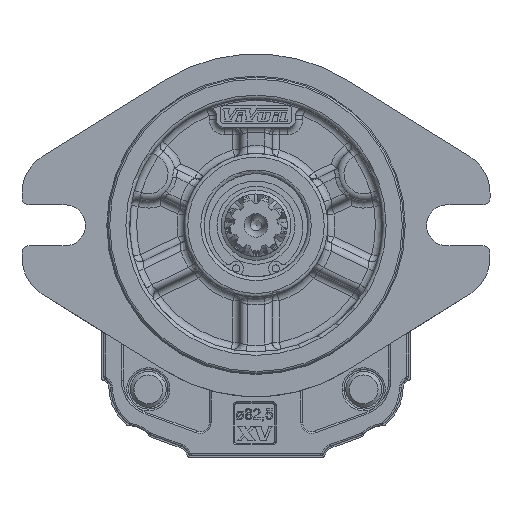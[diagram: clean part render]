
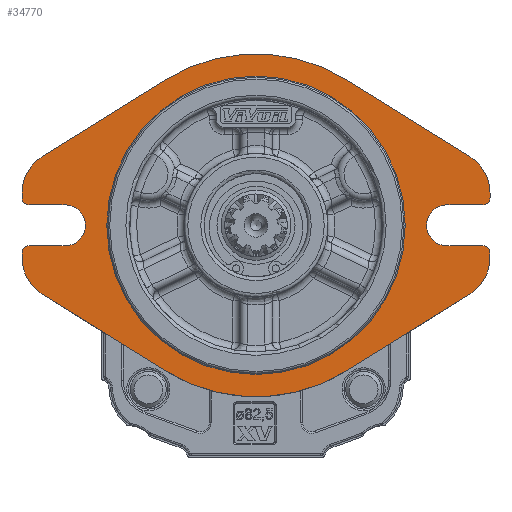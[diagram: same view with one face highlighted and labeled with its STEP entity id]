
A CAD part, front view. The second image highlights one B-rep face of the part: STEP entity #34770.
In plain terms, the highlighted planar face has unit normal (0, -1, 0).
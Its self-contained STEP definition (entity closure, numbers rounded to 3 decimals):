
#1561=LINE('',#51268,#3473);
#1565=LINE('',#51280,#3477);
#1566=LINE('',#51282,#3478);
#1573=LINE('',#51301,#3485);
#1574=LINE('',#51303,#3486);
#1581=LINE('',#51332,#3493);
#1582=LINE('',#51337,#3494);
#1583=LINE('',#51341,#3495);
#1584=LINE('',#51344,#3496);
#1585=LINE('',#51348,#3497);
#1586=LINE('',#51352,#3498);
#1587=LINE('',#51356,#3499);
#3473=VECTOR('',#40808,1000.);
#3477=VECTOR('',#40820,1000.);
#3478=VECTOR('',#40823,1000.);
#3485=VECTOR('',#40838,1000.);
#3486=VECTOR('',#40841,1000.);
#3493=VECTOR('',#40870,1000.);
#3494=VECTOR('',#40873,1000.);
#3495=VECTOR('',#40876,1000.);
#3496=VECTOR('',#40881,1000.);
#3497=VECTOR('',#40884,1000.);
#3498=VECTOR('',#40887,1000.);
#3499=VECTOR('',#40890,1000.);
#5007=PLANE('',#36669);
#8334=ORIENTED_EDGE('',*,*,#14771,.T.);
#8335=ORIENTED_EDGE('',*,*,#14772,.F.);
#8336=ORIENTED_EDGE('',*,*,#14773,.T.);
#8337=ORIENTED_EDGE('',*,*,#14774,.F.);
#8338=ORIENTED_EDGE('',*,*,#14775,.F.);
#8339=ORIENTED_EDGE('',*,*,#14776,.F.);
#8340=ORIENTED_EDGE('',*,*,#14692,.F.);
#8341=ORIENTED_EDGE('',*,*,#14741,.F.);
#8342=ORIENTED_EDGE('',*,*,#14744,.F.);
#8343=ORIENTED_EDGE('',*,*,#14747,.F.);
#8344=ORIENTED_EDGE('',*,*,#14777,.T.);
#8345=ORIENTED_EDGE('',*,*,#14748,.F.);
#8346=ORIENTED_EDGE('',*,*,#14754,.F.);
#8347=ORIENTED_EDGE('',*,*,#14757,.F.);
#8348=ORIENTED_EDGE('',*,*,#14778,.T.);
#8349=ORIENTED_EDGE('',*,*,#14758,.F.);
#8350=ORIENTED_EDGE('',*,*,#14770,.F.);
#8351=ORIENTED_EDGE('',*,*,#14779,.F.);
#8352=ORIENTED_EDGE('',*,*,#14780,.F.);
#8353=ORIENTED_EDGE('',*,*,#14781,.F.);
#8354=ORIENTED_EDGE('',*,*,#14782,.F.);
#8355=ORIENTED_EDGE('',*,*,#14783,.F.);
#8356=ORIENTED_EDGE('',*,*,#14784,.T.);
#8357=ORIENTED_EDGE('',*,*,#14785,.F.);
#8358=ORIENTED_EDGE('',*,*,#14786,.F.);
#14692=EDGE_CURVE('',#18058,#18059,#20002,.T.);
#14741=EDGE_CURVE('',#18101,#18058,#1561,.T.);
#14744=EDGE_CURVE('',#18103,#18101,#20030,.T.);
#14747=EDGE_CURVE('',#18105,#18103,#1565,.T.);
#14748=EDGE_CURVE('',#18106,#18107,#1566,.T.);
#14754=EDGE_CURVE('',#18111,#18106,#20032,.T.);
#14757=EDGE_CURVE('',#18113,#18111,#1573,.T.);
#14758=EDGE_CURVE('',#18114,#18115,#1574,.T.);
#14770=EDGE_CURVE('',#18123,#18114,#20038,.T.);
#14771=EDGE_CURVE('',#18124,#18124,#20039,.T.);
#14772=EDGE_CURVE('',#18125,#18126,#1581,.T.);
#14773=EDGE_CURVE('',#18125,#18127,#20040,.F.);
#14774=EDGE_CURVE('',#18128,#18127,#1582,.T.);
#14775=EDGE_CURVE('',#18129,#18128,#20041,.T.);
#14776=EDGE_CURVE('',#18059,#18129,#1583,.T.);
#14777=EDGE_CURVE('',#18105,#18107,#20042,.F.);
#14778=EDGE_CURVE('',#18113,#18115,#20043,.F.);
#14779=EDGE_CURVE('',#18130,#18123,#1584,.T.);
#14780=EDGE_CURVE('',#18131,#18130,#20044,.T.);
#14781=EDGE_CURVE('',#18132,#18131,#1585,.T.);
#14782=EDGE_CURVE('',#18133,#18132,#20045,.T.);
#14783=EDGE_CURVE('',#18134,#18133,#1586,.T.);
#14784=EDGE_CURVE('',#18134,#18135,#20046,.F.);
#14785=EDGE_CURVE('',#18136,#18135,#1587,.T.);
#14786=EDGE_CURVE('',#18126,#18136,#20047,.T.);
#18058=VERTEX_POINT('',#51168);
#18059=VERTEX_POINT('',#51170);
#18101=VERTEX_POINT('',#51267);
#18103=VERTEX_POINT('',#51273);
#18105=VERTEX_POINT('',#51279);
#18106=VERTEX_POINT('',#51283);
#18107=VERTEX_POINT('',#51284);
#18111=VERTEX_POINT('',#51294);
#18113=VERTEX_POINT('',#51300);
#18114=VERTEX_POINT('',#51304);
#18115=VERTEX_POINT('',#51305);
#18123=VERTEX_POINT('',#51327);
#18124=VERTEX_POINT('',#51331);
#18125=VERTEX_POINT('',#51333);
#18126=VERTEX_POINT('',#51334);
#18127=VERTEX_POINT('',#51336);
#18128=VERTEX_POINT('',#51338);
#18129=VERTEX_POINT('',#51340);
#18130=VERTEX_POINT('',#51345);
#18131=VERTEX_POINT('',#51347);
#18132=VERTEX_POINT('',#51349);
#18133=VERTEX_POINT('',#51351);
#18134=VERTEX_POINT('',#51353);
#18135=VERTEX_POINT('',#51355);
#18136=VERTEX_POINT('',#51357);
#20002=CIRCLE('',#36618,47.75);
#20030=CIRCLE('',#36652,12.);
#20032=CIRCLE('',#36657,5.7);
#20038=CIRCLE('',#36668,12.);
#20039=CIRCLE('',#36670,40.982);
#20040=CIRCLE('',#36671,2.);
#20041=CIRCLE('',#36672,12.);
#20042=CIRCLE('',#36673,2.);
#20043=CIRCLE('',#36674,2.);
#20044=CIRCLE('',#36675,47.75);
#20045=CIRCLE('',#36676,12.);
#20046=CIRCLE('',#36677,2.);
#20047=CIRCLE('',#36678,5.7);
#21477=EDGE_LOOP('',(#8334));
#21478=EDGE_LOOP('',(#8335,#8336,#8337,#8338,#8339,#8340,#8341,#8342,#8343,
#8344,#8345,#8346,#8347,#8348,#8349,#8350,#8351,#8352,#8353,#8354,#8355,
#8356,#8357,#8358));
#23149=FACE_BOUND('',#21477,.T.);
#23150=FACE_BOUND('',#21478,.T.);
#34770=ADVANCED_FACE('',(#23149,#23150),#5007,.F.);
#36618=AXIS2_PLACEMENT_3D('',#51169,#40724,#40725);
#36652=AXIS2_PLACEMENT_3D('',#51274,#40814,#40815);
#36657=AXIS2_PLACEMENT_3D('',#51295,#40832,#40833);
#36668=AXIS2_PLACEMENT_3D('',#51328,#40864,#40865);
#36669=AXIS2_PLACEMENT_3D('',#51329,#40866,#40867);
#36670=AXIS2_PLACEMENT_3D('',#51330,#40868,#40869);
#36671=AXIS2_PLACEMENT_3D('',#51335,#40871,#40872);
#36672=AXIS2_PLACEMENT_3D('',#51339,#40874,#40875);
#36673=AXIS2_PLACEMENT_3D('',#51342,#40877,#40878);
#36674=AXIS2_PLACEMENT_3D('',#51343,#40879,#40880);
#36675=AXIS2_PLACEMENT_3D('',#51346,#40882,#40883);
#36676=AXIS2_PLACEMENT_3D('',#51350,#40885,#40886);
#36677=AXIS2_PLACEMENT_3D('',#51354,#40888,#40889);
#36678=AXIS2_PLACEMENT_3D('',#51358,#40891,#40892);
#40724=DIRECTION('',(0.,1.,0.));
#40725=DIRECTION('',(-1.,0.,0.));
#40808=DIRECTION('',(-0.849,0.,-0.528));
#40814=DIRECTION('',(0.,1.,0.));
#40815=DIRECTION('',(-1.,0.,0.));
#40820=DIRECTION('',(0.,0.,-1.));
#40823=DIRECTION('',(1.,0.,0.));
#40832=DIRECTION('',(0.,-1.,0.));
#40833=DIRECTION('',(1.,0.,0.));
#40838=DIRECTION('',(-1.,0.,0.));
#40841=DIRECTION('',(0.,0.,-1.));
#40864=DIRECTION('',(0.,1.,0.));
#40865=DIRECTION('',(-1.,0.,0.));
#40866=DIRECTION('',(0.,1.,0.));
#40867=DIRECTION('',(0.,0.,-1.));
#40868=DIRECTION('',(0.,1.,0.));
#40869=DIRECTION('',(-1.,0.,0.));
#40870=DIRECTION('',(1.,0.,0.));
#40871=DIRECTION('',(0.,1.,0.));
#40872=DIRECTION('',(0.,0.,-1.));
#40873=DIRECTION('',(0.,0.,1.));
#40874=DIRECTION('',(0.,1.,0.));
#40875=DIRECTION('',(1.,0.,0.));
#40876=DIRECTION('',(-0.849,0.,0.528));
#40877=DIRECTION('',(0.,1.,0.));
#40878=DIRECTION('',(0.,0.,-1.));
#40879=DIRECTION('',(0.,1.,0.));
#40880=DIRECTION('',(0.,0.,-1.));
#40881=DIRECTION('',(0.849,0.,-0.528));
#40882=DIRECTION('',(0.,1.,0.));
#40883=DIRECTION('',(-1.,0.,0.));
#40884=DIRECTION('',(0.849,0.,0.528));
#40885=DIRECTION('',(0.,1.,0.));
#40886=DIRECTION('',(1.,0.,0.));
#40887=DIRECTION('',(0.,0.,1.));
#40888=DIRECTION('',(0.,1.,0.));
#40889=DIRECTION('',(0.,0.,-1.));
#40890=DIRECTION('',(-1.,0.,0.));
#40891=DIRECTION('',(0.,-1.,0.));
#40892=DIRECTION('',(-1.,0.,0.));
#51168=CARTESIAN_POINT('',(25.235,-19.,-24.837));
#51169=CARTESIAN_POINT('',(0.,-19.,15.7));
#51170=CARTESIAN_POINT('',(-25.235,-19.,-24.837));
#51267=CARTESIAN_POINT('',(59.532,-19.,-3.487));
#51268=CARTESIAN_POINT('',(59.532,-19.,-3.487));
#51273=CARTESIAN_POINT('',(65.19,-19.,6.7));
#51274=CARTESIAN_POINT('',(53.19,-19.,6.7));
#51279=CARTESIAN_POINT('',(65.19,-19.,8.));
#51280=CARTESIAN_POINT('',(65.19,-19.,6.7));
#51282=CARTESIAN_POINT('',(53.19,-19.,10.));
#51283=CARTESIAN_POINT('',(53.19,-19.,10.));
#51284=CARTESIAN_POINT('',(63.19,-19.,10.));
#51294=CARTESIAN_POINT('',(53.19,-19.,21.4));
#51295=CARTESIAN_POINT('',(53.19,-19.,15.7));
#51300=CARTESIAN_POINT('',(63.19,-19.,21.4));
#51301=CARTESIAN_POINT('',(53.19,-19.,21.4));
#51303=CARTESIAN_POINT('',(65.19,-19.,24.7));
#51304=CARTESIAN_POINT('',(65.19,-19.,24.7));
#51305=CARTESIAN_POINT('',(65.19,-19.,23.4));
#51327=CARTESIAN_POINT('',(59.532,-19.,34.887));
#51328=CARTESIAN_POINT('',(53.19,-19.,24.7));
#51329=CARTESIAN_POINT('',(0.,-19.,15.7));
#51330=CARTESIAN_POINT('',(0.,-19.,15.7));
#51331=CARTESIAN_POINT('',(-40.982,-19.,15.7));
#51332=CARTESIAN_POINT('',(-53.19,-19.,10.));
#51333=CARTESIAN_POINT('',(-63.19,-19.,10.));
#51334=CARTESIAN_POINT('',(-53.19,-19.,10.));
#51335=CARTESIAN_POINT('',(-63.19,-19.,8.));
#51336=CARTESIAN_POINT('',(-65.19,-19.,8.));
#51337=CARTESIAN_POINT('',(-65.19,-19.,6.7));
#51338=CARTESIAN_POINT('',(-65.19,-19.,6.7));
#51339=CARTESIAN_POINT('',(-53.19,-19.,6.7));
#51340=CARTESIAN_POINT('',(-59.532,-19.,-3.487));
#51341=CARTESIAN_POINT('',(-59.532,-19.,-3.487));
#51342=CARTESIAN_POINT('',(63.19,-19.,8.));
#51343=CARTESIAN_POINT('',(63.19,-19.,23.4));
#51344=CARTESIAN_POINT('',(25.235,-19.,56.237));
#51345=CARTESIAN_POINT('',(25.235,-19.,56.237));
#51346=CARTESIAN_POINT('',(0.,-19.,15.7));
#51347=CARTESIAN_POINT('',(-25.235,-19.,56.237));
#51348=CARTESIAN_POINT('',(-25.235,-19.,56.237));
#51349=CARTESIAN_POINT('',(-59.532,-19.,34.887));
#51350=CARTESIAN_POINT('',(-53.19,-19.,24.7));
#51351=CARTESIAN_POINT('',(-65.19,-19.,24.7));
#51352=CARTESIAN_POINT('',(-65.19,-19.,24.7));
#51353=CARTESIAN_POINT('',(-65.19,-19.,23.4));
#51354=CARTESIAN_POINT('',(-63.19,-19.,23.4));
#51355=CARTESIAN_POINT('',(-63.19,-19.,21.4));
#51356=CARTESIAN_POINT('',(-53.19,-19.,21.4));
#51357=CARTESIAN_POINT('',(-53.19,-19.,21.4));
#51358=CARTESIAN_POINT('',(-53.19,-19.,15.7));
